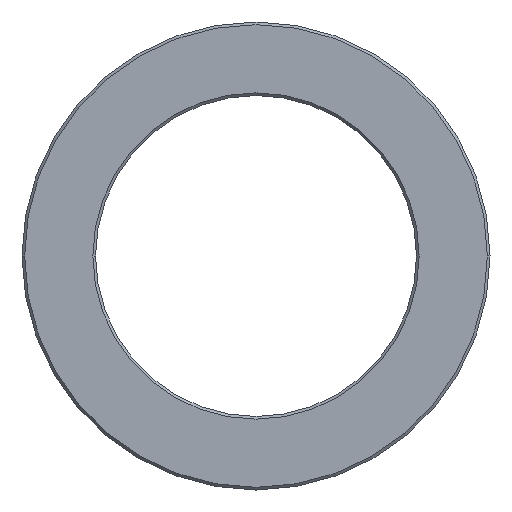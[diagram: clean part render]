
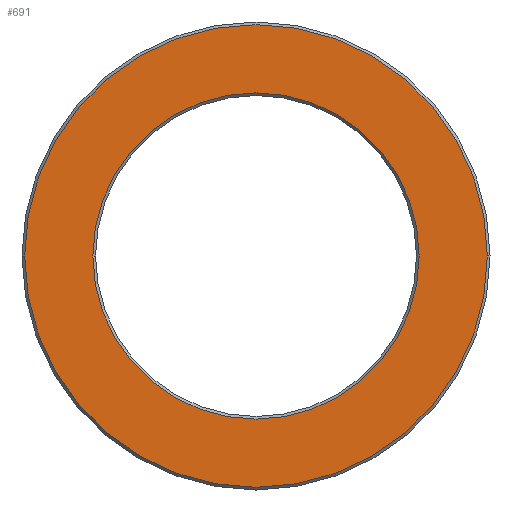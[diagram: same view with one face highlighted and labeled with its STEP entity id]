
A CAD part, left-side view. The second image highlights one B-rep face of the part: STEP entity #691.
In plain terms, the highlighted planar face has unit normal (-1, 0, 0).
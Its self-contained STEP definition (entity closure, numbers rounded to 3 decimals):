
#16 = CARTESIAN_POINT ( 'NONE',  ( -22., -17.3, 0. ) ) ;
#22 = CARTESIAN_POINT ( 'NONE',  ( -22., -12.2, 0. ) ) ;
#23 = CARTESIAN_POINT ( 'NONE',  ( -22., 12.2, 0. ) ) ;
#67 = DIRECTION ( 'NONE',  ( 0., -1., 0. ) ) ;
#68 = DIRECTION ( 'NONE',  ( -1., 0., 0. ) ) ;
#69 = CARTESIAN_POINT ( 'NONE',  ( -22., 0., 0. ) ) ;
#79 = CIRCLE ( 'NONE', #143, 17.3 ) ;
#124 = CIRCLE ( 'NONE', #126, 17.3 ) ;
#126 = AXIS2_PLACEMENT_3D ( 'NONE', #561, #560, #559 ) ;
#143 = AXIS2_PLACEMENT_3D ( 'NONE', #69, #68, #67 ) ;
#157 = CARTESIAN_POINT ( 'NONE',  ( -22., 17.3, 0. ) ) ;
#164 = VERTEX_POINT ( 'NONE', #157 ) ;
#184 = VERTEX_POINT ( 'NONE', #23 ) ;
#185 = VERTEX_POINT ( 'NONE', #22 ) ;
#192 = VERTEX_POINT ( 'NONE', #16 ) ;
#210 = EDGE_LOOP ( 'NONE', ( #595, #594 ) ) ;
#212 = EDGE_LOOP ( 'NONE', ( #652, #596 ) ) ;
#261 = AXIS2_PLACEMENT_3D ( 'NONE', #340, #337, #346 ) ;
#300 = CIRCLE ( 'NONE', #303, 12.2 ) ;
#303 = AXIS2_PLACEMENT_3D ( 'NONE', #441, #442, #443 ) ;
#312 = CIRCLE ( 'NONE', #315, 12.2 ) ;
#315 = AXIS2_PLACEMENT_3D ( 'NONE', #465, #466, #467 ) ;
#337 = DIRECTION ( 'NONE',  ( -1., 0., 0. ) ) ;
#340 = CARTESIAN_POINT ( 'NONE',  ( -22., 12., 0. ) ) ;
#341 = FACE_BOUND ( 'NONE', #212, .T. ) ;
#343 = FACE_OUTER_BOUND ( 'NONE', #210, .T. ) ;
#344 = PLANE ( 'NONE',  #261 ) ;
#346 = DIRECTION ( 'NONE',  ( 0., -1., 0. ) ) ;
#441 = CARTESIAN_POINT ( 'NONE',  ( -22., 0., 0. ) ) ;
#442 = DIRECTION ( 'NONE',  ( 1., 0., 0. ) ) ;
#443 = DIRECTION ( 'NONE',  ( 0., -1., 0. ) ) ;
#465 = CARTESIAN_POINT ( 'NONE',  ( -22., 0., 0. ) ) ;
#466 = DIRECTION ( 'NONE',  ( 1., 0., 0. ) ) ;
#467 = DIRECTION ( 'NONE',  ( 0., -1., 0. ) ) ;
#559 = DIRECTION ( 'NONE',  ( 0., -1., 0. ) ) ;
#560 = DIRECTION ( 'NONE',  ( -1., 0., 0. ) ) ;
#561 = CARTESIAN_POINT ( 'NONE',  ( -22., 0., 0. ) ) ;
#594 = ORIENTED_EDGE ( 'NONE', *, *, #660, .T. ) ;
#595 = ORIENTED_EDGE ( 'NONE', *, *, #682, .T. ) ;
#596 = ORIENTED_EDGE ( 'NONE', *, *, #718, .T. ) ;
#652 = ORIENTED_EDGE ( 'NONE', *, *, #710, .T. ) ;
#660 = EDGE_CURVE ( 'NONE', #192, #164, #124, .T. ) ;
#682 = EDGE_CURVE ( 'NONE', #164, #192, #79, .T. ) ;
#691 = ADVANCED_FACE ( 'NONE', ( #341, #343 ), #344, .T. ) ;
#710 = EDGE_CURVE ( 'NONE', #185, #184, #300, .T. ) ;
#718 = EDGE_CURVE ( 'NONE', #184, #185, #312, .T. ) ;
